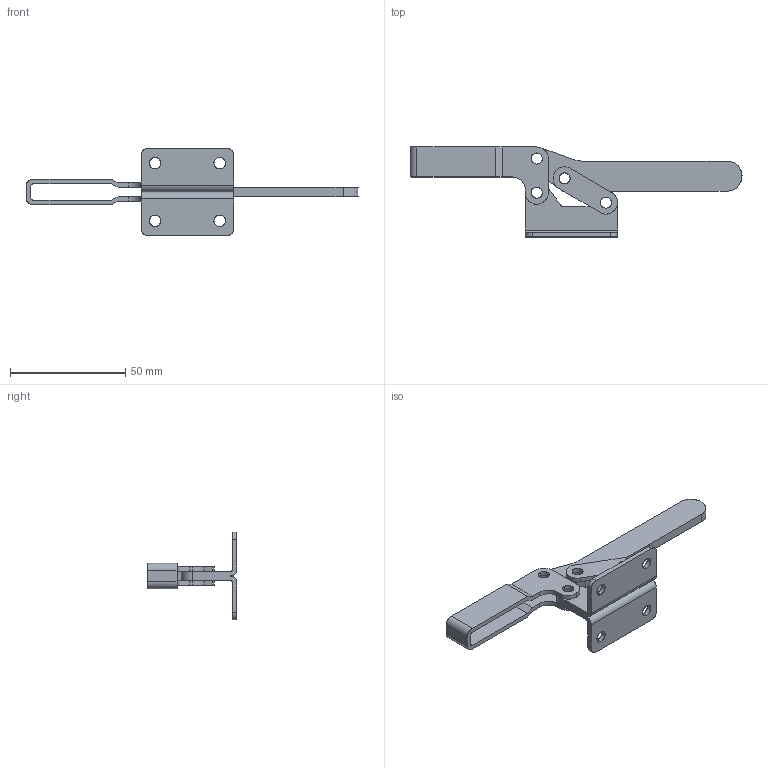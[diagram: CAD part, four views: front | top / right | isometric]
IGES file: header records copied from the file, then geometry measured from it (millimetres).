
Start section: Comment
Global section: file name: 201c.igs; native system:  By Spatial Corp.; preprocessor: XPlus PS/IGES 3.0; author: Author; organization: Title; date: 20050217.080331; units: inch
Bounding box: 143.99 x 39 x 38 mm (x, y, z)
Surface area: 13831.1 mm2 (no closed solid volume)
Topology: 0 solids, 0 shells, 113 faces, 618 edges, 618 vertices
Faces by surface type: revolution 66, extrusion 47
